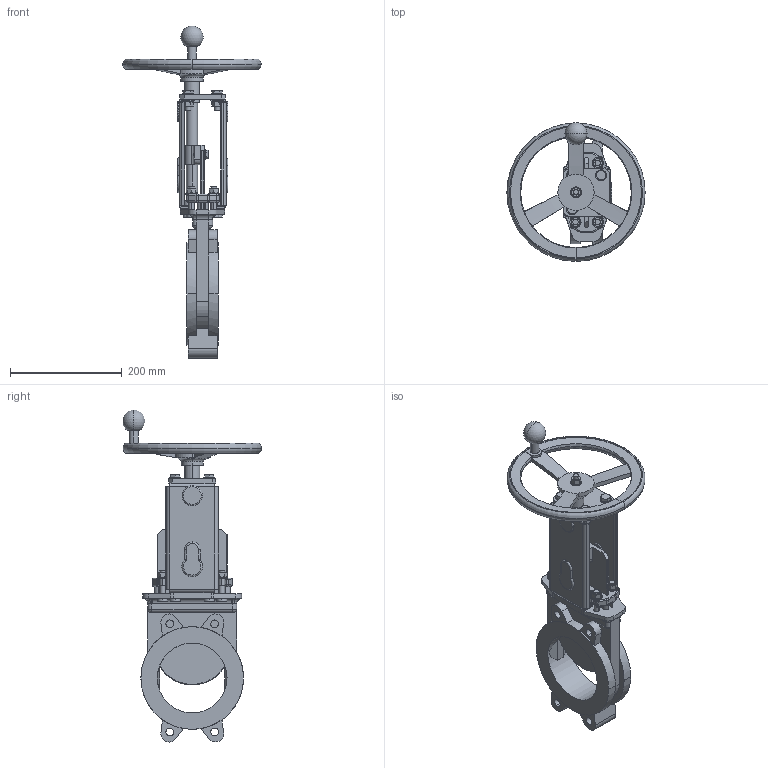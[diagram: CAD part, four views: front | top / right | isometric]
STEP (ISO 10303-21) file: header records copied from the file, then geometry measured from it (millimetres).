
FILE_DESCRIPTION(('STEP AP203'),'1');
FILE_NAME('G:/KONSTRUK/3-d block för CD/WB VALVE/HAND WHEEL/125/WB11-DN125-HW.stp','2012-11-30T12:58:27',(' '),(' '),'Spatial InterOp 3D',' ',' ');
FILE_SCHEMA(('CONFIG_CONTROL_DESIGN'));
Length unit declared in the file: millimetre
Products named in the file (7): 1; 2; 3; 4; 5; 6; 7
Bounding box: 248 x 248.8 x 595.26 mm (x, y, z)
Volume: 2153217.3 mm3; surface area: 461419.4 mm2
Topology: 7 solids, 15 shells, 1254 faces, 3014 edges, 1854 vertices
Faces by surface type: plane 510, cylinder 351, cone 289, torus 68, bspline 22, sphere 14
Entity records: 44493 total; most frequent: CARTESIAN_POINT 15005, DIRECTION 6259, ORIENTED_EDGE 6000, EDGE_CURVE 3000, AXIS2_PLACEMENT_3D 2476, VERTEX_POINT 1854, EDGE_LOOP 1378, LINE 1307
